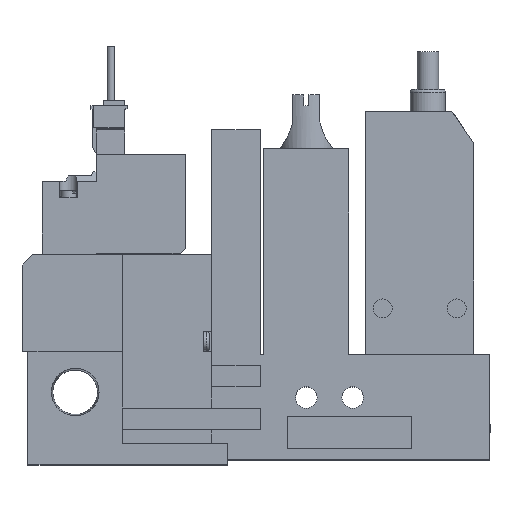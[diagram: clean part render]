
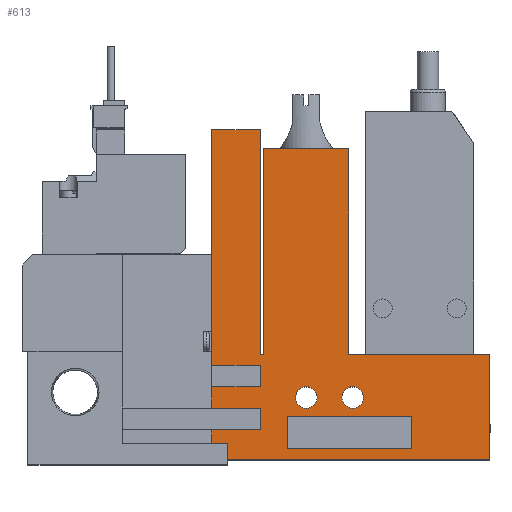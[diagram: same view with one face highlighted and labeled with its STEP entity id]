
A CAD part, top view. The second image highlights one B-rep face of the part: STEP entity #613.
In plain terms, the highlighted planar face has unit normal (0, 0, 1).
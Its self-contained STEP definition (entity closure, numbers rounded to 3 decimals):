
#613=ADVANCED_FACE('',(#1288,#1289,#1290,#1291),#1292,.T.);
#1288=FACE_OUTER_BOUND('',#2168,.T.);
#1289=FACE_BOUND('',#2169,.T.);
#1290=FACE_BOUND('',#2170,.T.);
#1291=FACE_BOUND('',#2171,.T.);
#1292=PLANE('',#2172);
#2168=EDGE_LOOP('',(#4591,#4592,#4593,#4594,#4595,#4596,#4597,#4598,#4599,#4600,#4601,#4602,#4603,#4604,#4605,#4606,#4607,#4608));
#2169=EDGE_LOOP('',(#4609,#4610,#4611,#4612));
#2170=EDGE_LOOP('',(#4613));
#2171=EDGE_LOOP('',(#4614));
#2172=AXIS2_PLACEMENT_3D('',#4615,#4616,#4617);
#4591=ORIENTED_EDGE('',*,*,#6300,.T.);
#4592=ORIENTED_EDGE('',*,*,#6301,.T.);
#4593=ORIENTED_EDGE('',*,*,#6302,.T.);
#4594=ORIENTED_EDGE('',*,*,#6303,.T.);
#4595=ORIENTED_EDGE('',*,*,#6304,.T.);
#4596=ORIENTED_EDGE('',*,*,#6305,.T.);
#4597=ORIENTED_EDGE('',*,*,#6306,.T.);
#4598=ORIENTED_EDGE('',*,*,#6307,.T.);
#4599=ORIENTED_EDGE('',*,*,#6308,.T.);
#4600=ORIENTED_EDGE('',*,*,#6309,.T.);
#4601=ORIENTED_EDGE('',*,*,#6310,.T.);
#4602=ORIENTED_EDGE('',*,*,#6311,.T.);
#4603=ORIENTED_EDGE('',*,*,#6312,.T.);
#4604=ORIENTED_EDGE('',*,*,#6313,.T.);
#4605=ORIENTED_EDGE('',*,*,#6314,.T.);
#4606=ORIENTED_EDGE('',*,*,#6315,.T.);
#4607=ORIENTED_EDGE('',*,*,#6316,.T.);
#4608=ORIENTED_EDGE('',*,*,#6317,.T.);
#4609=ORIENTED_EDGE('',*,*,#6318,.T.);
#4610=ORIENTED_EDGE('',*,*,#6319,.T.);
#4611=ORIENTED_EDGE('',*,*,#6320,.T.);
#4612=ORIENTED_EDGE('',*,*,#6321,.T.);
#4613=ORIENTED_EDGE('',*,*,#6322,.T.);
#4614=ORIENTED_EDGE('',*,*,#6323,.T.);
#4615=CARTESIAN_POINT('',(0.0,0.0,10.0));
#4616=DIRECTION('',(0.0,0.0,1.0));
#4617=DIRECTION('',(1.0,0.0,0.0));
#6300=EDGE_CURVE('',#7742,#7743,#7744,.T.);
#6301=EDGE_CURVE('',#7743,#7745,#7746,.T.);
#6302=EDGE_CURVE('',#7745,#7747,#7748,.T.);
#6303=EDGE_CURVE('',#7747,#7749,#7750,.T.);
#6304=EDGE_CURVE('',#7749,#7751,#7752,.T.);
#6305=EDGE_CURVE('',#7751,#7753,#7754,.T.);
#6306=EDGE_CURVE('',#7753,#7755,#7756,.T.);
#6307=EDGE_CURVE('',#7755,#7757,#7758,.T.);
#6308=EDGE_CURVE('',#7757,#7759,#7760,.T.);
#6309=EDGE_CURVE('',#7759,#7761,#7762,.T.);
#6310=EDGE_CURVE('',#7761,#7763,#7764,.T.);
#6311=EDGE_CURVE('',#7763,#7765,#7766,.T.);
#6312=EDGE_CURVE('',#7765,#7767,#7768,.T.);
#6313=EDGE_CURVE('',#7767,#7769,#7770,.T.);
#6314=EDGE_CURVE('',#7769,#7771,#7772,.T.);
#6315=EDGE_CURVE('',#7771,#7773,#7774,.T.);
#6316=EDGE_CURVE('',#7773,#7775,#7776,.T.);
#6317=EDGE_CURVE('',#7775,#7742,#7777,.T.);
#6318=EDGE_CURVE('',#7778,#7779,#7780,.T.);
#6319=EDGE_CURVE('',#7779,#7781,#7782,.T.);
#6320=EDGE_CURVE('',#7781,#7783,#7784,.T.);
#6321=EDGE_CURVE('',#7783,#7778,#7785,.T.);
#6322=EDGE_CURVE('',#7786,#7786,#7787,.T.);
#6323=EDGE_CURVE('',#7788,#7788,#7789,.T.);
#7742=VERTEX_POINT('',#10061);
#7743=VERTEX_POINT('',#10062);
#7744=LINE('',#10063,#10064);
#7745=VERTEX_POINT('',#10065);
#7746=LINE('',#10066,#10067);
#7747=VERTEX_POINT('',#10068);
#7748=LINE('',#10069,#10070);
#7749=VERTEX_POINT('',#10071);
#7750=LINE('',#10072,#10073);
#7751=VERTEX_POINT('',#10074);
#7752=LINE('',#10075,#10076);
#7753=VERTEX_POINT('',#10077);
#7754=LINE('',#10078,#10079);
#7755=VERTEX_POINT('',#10080);
#7756=LINE('',#10081,#10082);
#7757=VERTEX_POINT('',#10083);
#7758=LINE('',#10084,#10085);
#7759=VERTEX_POINT('',#10086);
#7760=LINE('',#10087,#10088);
#7761=VERTEX_POINT('',#10089);
#7762=LINE('',#10090,#10091);
#7763=VERTEX_POINT('',#10092);
#7764=LINE('',#10093,#10094);
#7765=VERTEX_POINT('',#10095);
#7766=LINE('',#10096,#10097);
#7767=VERTEX_POINT('',#10098);
#7768=LINE('',#10099,#10100);
#7769=VERTEX_POINT('',#10101);
#7770=LINE('',#10102,#10103);
#7771=VERTEX_POINT('',#10104);
#7772=LINE('',#10105,#10106);
#7773=VERTEX_POINT('',#10107);
#7774=LINE('',#10108,#10109);
#7775=VERTEX_POINT('',#10110);
#7776=LINE('',#10111,#10112);
#7777=LINE('',#10113,#10114);
#7778=VERTEX_POINT('',#10115);
#7779=VERTEX_POINT('',#10116);
#7780=LINE('',#10117,#10118);
#7781=VERTEX_POINT('',#10119);
#7782=LINE('',#10120,#10121);
#7783=VERTEX_POINT('',#10122);
#7784=LINE('',#10123,#10124);
#7785=LINE('',#10125,#10126);
#7786=VERTEX_POINT('',#10127);
#7787=CIRCLE('',#10128,2.0);
#7788=VERTEX_POINT('',#10129);
#7789=CIRCLE('',#10130,2.0);
#10061=CARTESIAN_POINT('',(35.1,61.0,10.0));
#10062=CARTESIAN_POINT('',(35.1,17.5,10.0));
#10063=CARTESIAN_POINT('',(35.1,61.0,10.0));
#10064=VECTOR('',#11710,1.0);
#10065=CARTESIAN_POINT('',(44.1,17.5,10.0));
#10066=CARTESIAN_POINT('',(0.0,17.5,10.0));
#10067=VECTOR('',#11711,1.0);
#10068=CARTESIAN_POINT('',(44.1,13.5,10.0));
#10069=CARTESIAN_POINT('',(44.1,0.0,10.0));
#10070=VECTOR('',#11712,1.0);
#10071=CARTESIAN_POINT('',(35.1,13.5,10.0));
#10072=CARTESIAN_POINT('',(0.0,13.5,10.0));
#10073=VECTOR('',#11713,1.0);
#10074=CARTESIAN_POINT('',(35.1,9.5,10.0));
#10075=CARTESIAN_POINT('',(35.1,0.0,10.0));
#10076=VECTOR('',#11714,1.0);
#10077=CARTESIAN_POINT('',(44.1,9.5,10.0));
#10078=CARTESIAN_POINT('',(0.0,9.5,10.0));
#10079=VECTOR('',#11715,1.0);
#10080=CARTESIAN_POINT('',(44.1,5.5,10.0));
#10081=CARTESIAN_POINT('',(44.1,0.0,10.0));
#10082=VECTOR('',#11716,1.0);
#10083=CARTESIAN_POINT('',(35.1,5.5,10.0));
#10084=CARTESIAN_POINT('',(0.0,5.5,10.0));
#10085=VECTOR('',#11717,1.0);
#10086=CARTESIAN_POINT('',(35.1,0.0,10.0));
#10087=CARTESIAN_POINT('',(35.1,0.0,10.0));
#10088=VECTOR('',#11718,1.0);
#10089=CARTESIAN_POINT('',(86.6,0.0,10.0));
#10090=CARTESIAN_POINT('',(18.6,0.0,10.0));
#10091=VECTOR('',#11719,1.0);
#10092=CARTESIAN_POINT('',(86.6,19.5,10.0));
#10093=CARTESIAN_POINT('',(86.6,0.0,10.0));
#10094=VECTOR('',#11720,1.0);
#10095=CARTESIAN_POINT('',(60.45,19.5,10.0));
#10096=CARTESIAN_POINT('',(86.6,19.5,10.0));
#10097=VECTOR('',#11721,1.0);
#10098=CARTESIAN_POINT('',(60.45,57.5,10.0));
#10099=CARTESIAN_POINT('',(60.45,19.5,10.0));
#10100=VECTOR('',#11722,1.0);
#10101=CARTESIAN_POINT('',(44.75,57.5,10.0));
#10102=CARTESIAN_POINT('',(60.45,57.5,10.0));
#10103=VECTOR('',#11723,1.0);
#10104=CARTESIAN_POINT('',(44.75,19.5,10.0));
#10105=CARTESIAN_POINT('',(44.75,57.5,10.0));
#10106=VECTOR('',#11724,1.0);
#10107=CARTESIAN_POINT('',(44.1,19.5,10.0));
#10108=CARTESIAN_POINT('',(44.75,19.5,10.0));
#10109=VECTOR('',#11725,1.0);
#10110=CARTESIAN_POINT('',(44.1,61.0,10.0));
#10111=CARTESIAN_POINT('',(44.1,19.5,10.0));
#10112=VECTOR('',#11726,1.0);
#10113=CARTESIAN_POINT('',(44.1,61.0,10.0));
#10114=VECTOR('',#11727,1.0);
#10115=CARTESIAN_POINT('',(49.1,2.0,10.0));
#10116=CARTESIAN_POINT('',(49.1,8.0,10.0));
#10117=CARTESIAN_POINT('',(49.1,0.0,10.0));
#10118=VECTOR('',#11728,1.0);
#10119=CARTESIAN_POINT('',(72.1,8.0,10.0));
#10120=CARTESIAN_POINT('',(0.0,8.0,10.0));
#10121=VECTOR('',#11729,1.0);
#10122=CARTESIAN_POINT('',(72.1,2.0,10.0));
#10123=CARTESIAN_POINT('',(72.1,0.0,10.0));
#10124=VECTOR('',#11730,1.0);
#10125=CARTESIAN_POINT('',(0.0,2.0,10.0));
#10126=VECTOR('',#11731,1.0);
#10127=CARTESIAN_POINT('',(54.6,11.5,10.0));
#10128=AXIS2_PLACEMENT_3D('',#11732,#11733,#11734);
#10129=CARTESIAN_POINT('',(63.2,11.5,10.0));
#10130=AXIS2_PLACEMENT_3D('',#11735,#11736,#11737);
#11710=DIRECTION('',(0.0,-1.0,0.0));
#11711=DIRECTION('',(1.0,0.0,0.0));
#11712=DIRECTION('',(0.0,-1.0,0.0));
#11713=DIRECTION('',(-1.0,0.0,0.0));
#11714=DIRECTION('',(0.0,-1.0,0.0));
#11715=DIRECTION('',(1.0,0.0,0.0));
#11716=DIRECTION('',(0.0,-1.0,0.0));
#11717=DIRECTION('',(-1.0,0.0,0.0));
#11718=DIRECTION('',(0.0,-1.0,0.0));
#11719=DIRECTION('',(1.0,0.0,0.0));
#11720=DIRECTION('',(0.0,1.0,0.0));
#11721=DIRECTION('',(-1.0,0.0,0.0));
#11722=DIRECTION('',(0.0,1.0,0.0));
#11723=DIRECTION('',(-1.0,0.0,0.0));
#11724=DIRECTION('',(0.0,-1.0,0.0));
#11725=DIRECTION('',(-1.0,0.0,0.0));
#11726=DIRECTION('',(0.0,1.0,0.0));
#11727=DIRECTION('',(-1.0,0.0,0.0));
#11728=DIRECTION('',(0.0,1.0,0.0));
#11729=DIRECTION('',(1.0,0.0,0.0));
#11730=DIRECTION('',(0.0,-1.0,0.0));
#11731=DIRECTION('',(-1.0,0.0,0.0));
#11732=CARTESIAN_POINT('',(52.6,11.5,10.0));
#11733=DIRECTION('',(0.0,0.0,-1.0));
#11734=DIRECTION('',(1.0,0.0,0.0));
#11735=CARTESIAN_POINT('',(61.2,11.5,10.0));
#11736=DIRECTION('',(0.0,0.0,-1.0));
#11737=DIRECTION('',(1.0,0.0,0.0));
